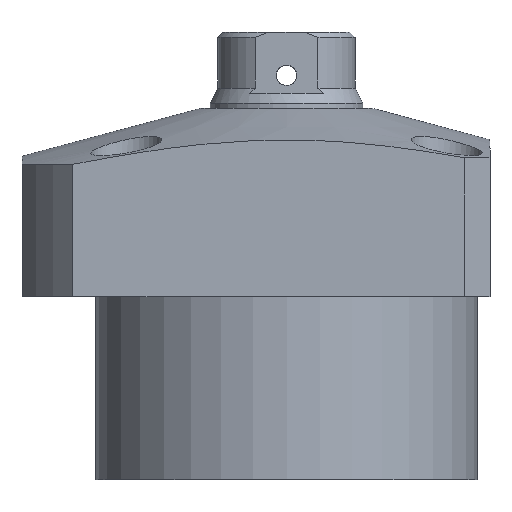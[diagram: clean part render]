
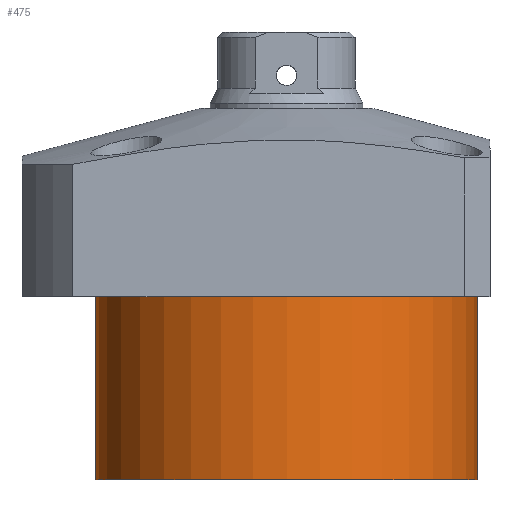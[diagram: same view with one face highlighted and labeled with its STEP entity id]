
A CAD part, front view. The second image highlights one B-rep face of the part: STEP entity #475.
In plain terms, the highlighted cylindrical face has radius 37.5 mm (diameter 75 mm), a partial arc.
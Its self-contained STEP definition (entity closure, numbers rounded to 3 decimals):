
#2 = ORIENTED_EDGE ( 'NONE', *, *, #66, .T. ) ;
#66 = EDGE_CURVE ( 'NONE', #1392, #2508, #866, .T. ) ;
#208 = AXIS2_PLACEMENT_3D ( 'NONE', #459, #1092, #1064 ) ;
#220 = LINE ( 'NONE', #2163, #1344 ) ;
#459 = CARTESIAN_POINT ( 'NONE',  ( 0., 0., -54.5 ) ) ;
#475 = ADVANCED_FACE ( 'NONE', ( #2172 ), #689, .T. ) ;
#593 = VERTEX_POINT ( 'NONE', #1628 ) ;
#597 = DIRECTION ( 'NONE',  ( 0., 0., 1. ) ) ;
#635 = CARTESIAN_POINT ( 'NONE',  ( 0., 0., -54.5 ) ) ;
#666 = VECTOR ( 'NONE', #2705, 1000. ) ;
#689 = CYLINDRICAL_SURFACE ( 'NONE', #2653, 37.5 ) ;
#866 = CIRCLE ( 'NONE', #2614, 37.5 ) ;
#1064 = DIRECTION ( 'NONE',  ( -1., 0., 0. ) ) ;
#1092 = DIRECTION ( 'NONE',  ( 0., 0., -1. ) ) ;
#1147 = LINE ( 'NONE', #2527, #666 ) ;
#1252 = DIRECTION ( 'NONE',  ( 1., 0., 0. ) ) ;
#1339 = ORIENTED_EDGE ( 'NONE', *, *, #2417, .F. ) ;
#1344 = VECTOR ( 'NONE', #597, 1000. ) ;
#1392 = VERTEX_POINT ( 'NONE', #1557 ) ;
#1513 = DIRECTION ( 'NONE',  ( 0., 0., 1. ) ) ;
#1557 = CARTESIAN_POINT ( 'NONE',  ( 37.5, 0., -18.5 ) ) ;
#1559 = CARTESIAN_POINT ( 'NONE',  ( 0., 0., -18.5 ) ) ;
#1628 = CARTESIAN_POINT ( 'NONE',  ( -37.5, 0., -54.5 ) ) ;
#1925 = CARTESIAN_POINT ( 'NONE',  ( -37.5, 0., -18.5 ) ) ;
#2022 = DIRECTION ( 'NONE',  ( 1., 0., 0. ) ) ;
#2033 = EDGE_CURVE ( 'NONE', #2260, #1392, #220, .T. ) ;
#2163 = CARTESIAN_POINT ( 'NONE',  ( 37.5, 0., -54.5 ) ) ;
#2172 = FACE_OUTER_BOUND ( 'NONE', #2208, .T. ) ;
#2198 = ORIENTED_EDGE ( 'NONE', *, *, #2033, .T. ) ;
#2208 = EDGE_LOOP ( 'NONE', ( #2696, #1339, #2198, #2 ) ) ;
#2260 = VERTEX_POINT ( 'NONE', #2356 ) ;
#2356 = CARTESIAN_POINT ( 'NONE',  ( 37.5, 0., -54.5 ) ) ;
#2417 = EDGE_CURVE ( 'NONE', #2260, #593, #2437, .T. ) ;
#2437 = CIRCLE ( 'NONE', #208, 37.5 ) ;
#2508 = VERTEX_POINT ( 'NONE', #1925 ) ;
#2527 = CARTESIAN_POINT ( 'NONE',  ( -37.5, 0., -54.5 ) ) ;
#2614 = AXIS2_PLACEMENT_3D ( 'NONE', #1559, #2663, #2022 ) ;
#2647 = EDGE_CURVE ( 'NONE', #593, #2508, #1147, .T. ) ;
#2653 = AXIS2_PLACEMENT_3D ( 'NONE', #635, #1513, #1252 ) ;
#2663 = DIRECTION ( 'NONE',  ( 0., 0., -1. ) ) ;
#2696 = ORIENTED_EDGE ( 'NONE', *, *, #2647, .F. ) ;
#2705 = DIRECTION ( 'NONE',  ( 0., 0., 1. ) ) ;
